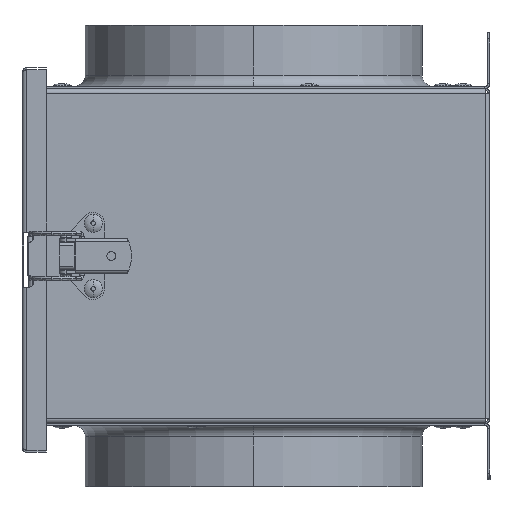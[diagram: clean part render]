
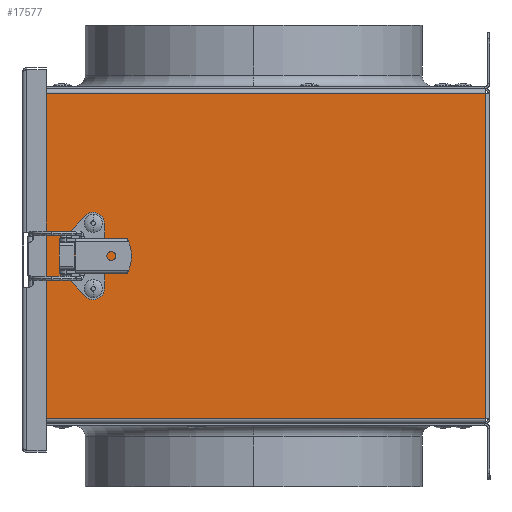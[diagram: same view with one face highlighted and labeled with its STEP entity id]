
A CAD part, left-side view. The second image highlights one B-rep face of the part: STEP entity #17577.
In plain terms, the highlighted planar face has unit normal (-1, 0, 0).
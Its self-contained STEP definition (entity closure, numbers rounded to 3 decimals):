
#48 = CARTESIAN_POINT ( 'NONE',  ( -100., 202.2, 58.1 ) ) ;
#156 = EDGE_CURVE ( 'NONE', #1600, #5235, #2743, .T. ) ;
#342 = VERTEX_POINT ( 'NONE', #48 ) ;
#451 = ORIENTED_EDGE ( 'NONE', *, *, #6188, .T. ) ;
#470 = VERTEX_POINT ( 'NONE', #10938 ) ;
#504 = VECTOR ( 'NONE', #4377, 1000. ) ;
#515 = CARTESIAN_POINT ( 'NONE',  ( -100., 2., 72. ) ) ;
#676 = DIRECTION ( 'NONE',  ( 0., 1., 0. ) ) ;
#893 = LINE ( 'NONE', #18831, #8448 ) ;
#906 = ORIENTED_EDGE ( 'NONE', *, *, #16893, .F. ) ;
#1011 = FACE_BOUND ( 'NONE', #3880, .T. ) ;
#1115 = DIRECTION ( 'NONE',  ( 0., -1., 0. ) ) ;
#1514 = CARTESIAN_POINT ( 'NONE',  ( -100., 204.2, 58.108 ) ) ;
#1542 = AXIS2_PLACEMENT_3D ( 'NONE', #12651, #3621, #14161 ) ;
#1600 = VERTEX_POINT ( 'NONE', #9369 ) ;
#1705 = DIRECTION ( 'NONE',  ( 1., 0., 0. ) ) ;
#2350 = DIRECTION ( 'NONE',  ( 1., 0., 0. ) ) ;
#2621 = CARTESIAN_POINT ( 'NONE',  ( -100., 204.2, -72. ) ) ;
#2644 = CARTESIAN_POINT ( 'NONE',  ( -100., 202.192, 74. ) ) ;
#2718 = CARTESIAN_POINT ( 'NONE',  ( -100., 2., -72. ) ) ;
#2743 = CIRCLE ( 'NONE', #13264, 2.1 ) ;
#2929 = CARTESIAN_POINT ( 'NONE',  ( -100., 202.192, 74. ) ) ;
#3195 = ORIENTED_EDGE ( 'NONE', *, *, #9735, .T. ) ;
#3246 = ORIENTED_EDGE ( 'NONE', *, *, #4729, .T. ) ;
#3621 = DIRECTION ( 'NONE',  ( 1., 0., 0. ) ) ;
#3686 = CARTESIAN_POINT ( 'NONE',  ( -100., 202.2, -58.1 ) ) ;
#3690 = CARTESIAN_POINT ( 'NONE',  ( -100., 0.8, 58.1 ) ) ;
#3701 = ORIENTED_EDGE ( 'NONE', *, *, #7407, .T. ) ;
#3880 = EDGE_LOOP ( 'NONE', ( #15079, #3246 ) ) ;
#4075 = DIRECTION ( 'NONE',  ( 1., 0., 0. ) ) ;
#4353 = CARTESIAN_POINT ( 'NONE',  ( -100., 204.2, 72. ) ) ;
#4377 = DIRECTION ( 'NONE',  ( 0., 0., 1. ) ) ;
#4452 = EDGE_CURVE ( 'NONE', #16083, #8411, #13152, .T. ) ;
#4514 = LINE ( 'NONE', #2929, #504 ) ;
#4676 = VECTOR ( 'NONE', #13039, 1000. ) ;
#4729 = EDGE_CURVE ( 'NONE', #5235, #1600, #12450, .T. ) ;
#4965 = ORIENTED_EDGE ( 'NONE', *, *, #8295, .T. ) ;
#5014 = FACE_OUTER_BOUND ( 'NONE', #12661, .T. ) ;
#5059 = LINE ( 'NONE', #14814, #12609 ) ;
#5085 = VECTOR ( 'NONE', #17598, 1000. ) ;
#5131 = VERTEX_POINT ( 'NONE', #10767 ) ;
#5235 = VERTEX_POINT ( 'NONE', #11018 ) ;
#5488 = EDGE_CURVE ( 'NONE', #13309, #19577, #12195, .T. ) ;
#5682 = DIRECTION ( 'NONE',  ( 1., 0., 0. ) ) ;
#6102 = CARTESIAN_POINT ( 'NONE',  ( -100., 0.8, 74. ) ) ;
#6188 = EDGE_CURVE ( 'NONE', #15680, #12310, #5059, .T. ) ;
#6454 = DIRECTION ( 'NONE',  ( 0., 1., 0. ) ) ;
#6492 = CARTESIAN_POINT ( 'NONE',  ( -100., 202.192, -58.1 ) ) ;
#6729 = DIRECTION ( 'NONE',  ( 0., -1., 0. ) ) ;
#7407 = EDGE_CURVE ( 'NONE', #5131, #16083, #10227, .T. ) ;
#7890 = CARTESIAN_POINT ( 'NONE',  ( -100., 204.2, -58.108 ) ) ;
#7910 = CARTESIAN_POINT ( 'NONE',  ( -100., 0.8, 58.108 ) ) ;
#7992 = LINE ( 'NONE', #7910, #11990 ) ;
#8080 = VECTOR ( 'NONE', #17754, 1000. ) ;
#8294 = ORIENTED_EDGE ( 'NONE', *, *, #12361, .F. ) ;
#8295 = EDGE_CURVE ( 'NONE', #11180, #19575, #12547, .T. ) ;
#8300 = EDGE_CURVE ( 'NONE', #17565, #13309, #12069, .T. ) ;
#8373 = CARTESIAN_POINT ( 'NONE',  ( -100., 202.192, 58.108 ) ) ;
#8411 = VERTEX_POINT ( 'NONE', #1514 ) ;
#8448 = VECTOR ( 'NONE', #17289, 1000. ) ;
#8590 = CARTESIAN_POINT ( 'NONE',  ( -100., 177.6, 14.5 ) ) ;
#8764 = EDGE_LOOP ( 'NONE', ( #4965, #18320 ) ) ;
#8941 = CARTESIAN_POINT ( 'NONE',  ( -100., 204.2, -72. ) ) ;
#9115 = LINE ( 'NONE', #16069, #5085 ) ;
#9369 = CARTESIAN_POINT ( 'NONE',  ( -100., 177.6, -14.5 ) ) ;
#9420 = DIRECTION ( 'NONE',  ( 0., 1., 0. ) ) ;
#9480 = VECTOR ( 'NONE', #1115, 1000. ) ;
#9693 = CARTESIAN_POINT ( 'NONE',  ( -100., 173.4, 14.5 ) ) ;
#9735 = EDGE_CURVE ( 'NONE', #12310, #11239, #13459, .T. ) ;
#9823 = EDGE_CURVE ( 'NONE', #470, #18190, #4514, .T. ) ;
#10227 = LINE ( 'NONE', #515, #14209 ) ;
#10344 = EDGE_CURVE ( 'NONE', #19575, #11180, #12039, .T. ) ;
#10767 = CARTESIAN_POINT ( 'NONE',  ( -100., 2., 72. ) ) ;
#10938 = CARTESIAN_POINT ( 'NONE',  ( -100., 202.192, 58.1 ) ) ;
#11018 = CARTESIAN_POINT ( 'NONE',  ( -100., 173.4, -14.5 ) ) ;
#11027 = AXIS2_PLACEMENT_3D ( 'NONE', #11382, #2350, #12886 ) ;
#11180 = VERTEX_POINT ( 'NONE', #8590 ) ;
#11239 = VERTEX_POINT ( 'NONE', #2718 ) ;
#11382 = CARTESIAN_POINT ( 'NONE',  ( -100., 175.5, -14.5 ) ) ;
#11470 = ORIENTED_EDGE ( 'NONE', *, *, #8300, .F. ) ;
#11606 = CARTESIAN_POINT ( 'NONE',  ( -100., 204.2, 74. ) ) ;
#11869 = EDGE_CURVE ( 'NONE', #18190, #8411, #7992, .T. ) ;
#11876 = LINE ( 'NONE', #13109, #15390 ) ;
#11990 = VECTOR ( 'NONE', #9420, 1000. ) ;
#12039 = CIRCLE ( 'NONE', #1542, 2.1 ) ;
#12069 = LINE ( 'NONE', #2644, #8080 ) ;
#12074 = AXIS2_PLACEMENT_3D ( 'NONE', #14680, #5682, #16214 ) ;
#12098 = CARTESIAN_POINT ( 'NONE',  ( -100., 202.192, -58.108 ) ) ;
#12195 = LINE ( 'NONE', #14243, #15698 ) ;
#12230 = DIRECTION ( 'NONE',  ( 0., 1., 0. ) ) ;
#12310 = VERTEX_POINT ( 'NONE', #8941 ) ;
#12361 = EDGE_CURVE ( 'NONE', #5131, #11239, #893, .T. ) ;
#12450 = CIRCLE ( 'NONE', #11027, 2.1 ) ;
#12547 = CIRCLE ( 'NONE', #12074, 2.1 ) ;
#12609 = VECTOR ( 'NONE', #16349, 1000. ) ;
#12651 = CARTESIAN_POINT ( 'NONE',  ( -100., 175.5, 14.5 ) ) ;
#12661 = EDGE_LOOP ( 'NONE', ( #17093, #14731, #16388, #14035, #15416, #11470, #906, #451, #3195, #8294, #3701, #15591 ) ) ;
#12886 = DIRECTION ( 'NONE',  ( 0., 1., 0. ) ) ;
#13039 = DIRECTION ( 'NONE',  ( 0., 0., -1. ) ) ;
#13100 = CARTESIAN_POINT ( 'NONE',  ( -100., 175.5, -14.5 ) ) ;
#13109 = CARTESIAN_POINT ( 'NONE',  ( -100., 0.8, -58.108 ) ) ;
#13152 = LINE ( 'NONE', #11606, #4676 ) ;
#13264 = AXIS2_PLACEMENT_3D ( 'NONE', #13100, #4075, #14608 ) ;
#13309 = VERTEX_POINT ( 'NONE', #6492 ) ;
#13459 = LINE ( 'NONE', #2621, #9480 ) ;
#13561 = EDGE_CURVE ( 'NONE', #342, #19577, #9115, .T. ) ;
#13889 = AXIS2_PLACEMENT_3D ( 'NONE', #6102, #1705, #12230 ) ;
#13940 = VECTOR ( 'NONE', #6729, 1000. ) ;
#14035 = ORIENTED_EDGE ( 'NONE', *, *, #13561, .T. ) ;
#14161 = DIRECTION ( 'NONE',  ( 0., 1., 0. ) ) ;
#14209 = VECTOR ( 'NONE', #6454, 1000. ) ;
#14243 = CARTESIAN_POINT ( 'NONE',  ( -100., 0.8, -58.1 ) ) ;
#14608 = DIRECTION ( 'NONE',  ( 0., 1., 0. ) ) ;
#14680 = CARTESIAN_POINT ( 'NONE',  ( -100., 175.5, 14.5 ) ) ;
#14731 = ORIENTED_EDGE ( 'NONE', *, *, #9823, .F. ) ;
#14814 = CARTESIAN_POINT ( 'NONE',  ( -100., 204.2, 74. ) ) ;
#15079 = ORIENTED_EDGE ( 'NONE', *, *, #156, .T. ) ;
#15390 = VECTOR ( 'NONE', #17680, 1000. ) ;
#15416 = ORIENTED_EDGE ( 'NONE', *, *, #5488, .F. ) ;
#15591 = ORIENTED_EDGE ( 'NONE', *, *, #4452, .T. ) ;
#15680 = VERTEX_POINT ( 'NONE', #7890 ) ;
#15698 = VECTOR ( 'NONE', #676, 1000. ) ;
#16069 = CARTESIAN_POINT ( 'NONE',  ( -100., 202.2, 58.1 ) ) ;
#16083 = VERTEX_POINT ( 'NONE', #4353 ) ;
#16214 = DIRECTION ( 'NONE',  ( 0., 1., 0. ) ) ;
#16349 = DIRECTION ( 'NONE',  ( 0., 0., -1. ) ) ;
#16388 = ORIENTED_EDGE ( 'NONE', *, *, #16439, .F. ) ;
#16439 = EDGE_CURVE ( 'NONE', #342, #470, #17975, .T. ) ;
#16650 = PLANE ( 'NONE',  #13889 ) ;
#16893 = EDGE_CURVE ( 'NONE', #15680, #17565, #11876, .T. ) ;
#17093 = ORIENTED_EDGE ( 'NONE', *, *, #11869, .F. ) ;
#17289 = DIRECTION ( 'NONE',  ( 0., 0., -1. ) ) ;
#17529 = FACE_BOUND ( 'NONE', #8764, .T. ) ;
#17565 = VERTEX_POINT ( 'NONE', #12098 ) ;
#17577 = ADVANCED_FACE ( 'NONE', ( #1011, #17529, #5014 ), #16650, .F. ) ;
#17598 = DIRECTION ( 'NONE',  ( 0., 0., -1. ) ) ;
#17680 = DIRECTION ( 'NONE',  ( 0., -1., 0. ) ) ;
#17754 = DIRECTION ( 'NONE',  ( 0., 0., 1. ) ) ;
#17975 = LINE ( 'NONE', #3690, #13940 ) ;
#18190 = VERTEX_POINT ( 'NONE', #8373 ) ;
#18320 = ORIENTED_EDGE ( 'NONE', *, *, #10344, .T. ) ;
#18831 = CARTESIAN_POINT ( 'NONE',  ( -100., 2., -74. ) ) ;
#19575 = VERTEX_POINT ( 'NONE', #9693 ) ;
#19577 = VERTEX_POINT ( 'NONE', #3686 ) ;
